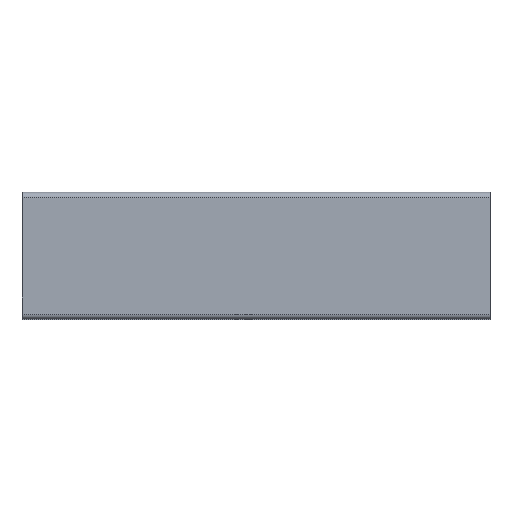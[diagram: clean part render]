
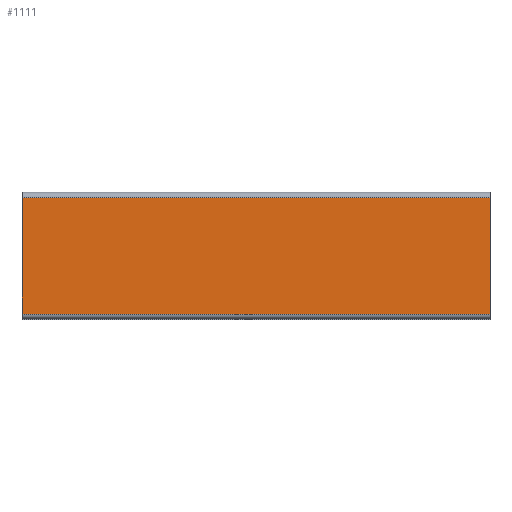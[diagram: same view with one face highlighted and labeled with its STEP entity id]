
A CAD part, top view. The second image highlights one B-rep face of the part: STEP entity #1111.
In plain terms, the highlighted planar face has unit normal (0, 0, 1).
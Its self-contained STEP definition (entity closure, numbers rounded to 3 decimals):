
#51 = DIRECTION ( 'NONE',  ( -1., 0., 0. ) ) ;
#52 = VECTOR ( 'NONE', #51, 1000. ) ;
#58 = CARTESIAN_POINT ( 'NONE',  ( 88.42, -11., 12. ) ) ;
#59 = LINE ( 'NONE', #58, #52 ) ;
#223 = DIRECTION ( 'NONE',  ( 0., -1., 0. ) ) ;
#224 = VECTOR ( 'NONE', #223, 1000. ) ;
#225 = CARTESIAN_POINT ( 'NONE',  ( 88.42, -11., 12. ) ) ;
#226 = LINE ( 'NONE', #225, #224 ) ;
#308 = CARTESIAN_POINT ( 'NONE',  ( 88.42, 11., 12. ) ) ;
#400 = DIRECTION ( 'NONE',  ( 0., -1., 0. ) ) ;
#401 = VECTOR ( 'NONE', #400, 1000. ) ;
#402 = CARTESIAN_POINT ( 'NONE',  ( 0., -11., 12. ) ) ;
#403 = LINE ( 'NONE', #402, #401 ) ;
#405 = DIRECTION ( 'NONE',  ( 0., 0., -1. ) ) ;
#412 = CARTESIAN_POINT ( 'NONE',  ( 88.42, -11., 12. ) ) ;
#417 = FACE_OUTER_BOUND ( 'NONE', #1115, .T. ) ;
#434 = CARTESIAN_POINT ( 'NONE',  ( 88.42, -11., 12. ) ) ;
#459 = DIRECTION ( 'NONE',  ( -1., 0., 0. ) ) ;
#460 = VECTOR ( 'NONE', #459, 1000. ) ;
#514 = PLANE ( 'NONE',  #517 ) ;
#517 = AXIS2_PLACEMENT_3D ( 'NONE', #412, #405, #609 ) ;
#568 = CARTESIAN_POINT ( 'NONE',  ( 88.42, 11., 12. ) ) ;
#569 = LINE ( 'NONE', #568, #460 ) ;
#570 = CARTESIAN_POINT ( 'NONE',  ( 0., 11., 12. ) ) ;
#590 = CARTESIAN_POINT ( 'NONE',  ( 0., -11., 12. ) ) ;
#609 = DIRECTION ( 'NONE',  ( -1., 0., 0. ) ) ;
#893 = EDGE_CURVE ( 'NONE', #1018, #1051, #226, .T. ) ;
#902 = EDGE_CURVE ( 'NONE', #1051, #1076, #59, .T. ) ;
#925 = ORIENTED_EDGE ( 'NONE', *, *, #893, .F. ) ;
#926 = ORIENTED_EDGE ( 'NONE', *, *, #1124, .T. ) ;
#1018 = VERTEX_POINT ( 'NONE', #308 ) ;
#1051 = VERTEX_POINT ( 'NONE', #434 ) ;
#1076 = VERTEX_POINT ( 'NONE', #590 ) ;
#1079 = ORIENTED_EDGE ( 'NONE', *, *, #902, .F. ) ;
#1111 = ADVANCED_FACE ( 'NONE', ( #417 ), #514, .F. ) ;
#1112 = ORIENTED_EDGE ( 'NONE', *, *, #1132, .T. ) ;
#1115 = EDGE_LOOP ( 'NONE', ( #1112, #1079, #925, #926 ) ) ;
#1124 = EDGE_CURVE ( 'NONE', #1018, #1129, #569, .T. ) ;
#1129 = VERTEX_POINT ( 'NONE', #570 ) ;
#1132 = EDGE_CURVE ( 'NONE', #1129, #1076, #403, .T. ) ;
